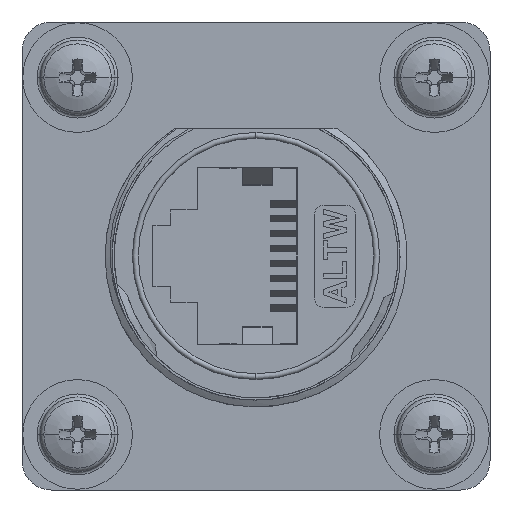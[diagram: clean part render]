
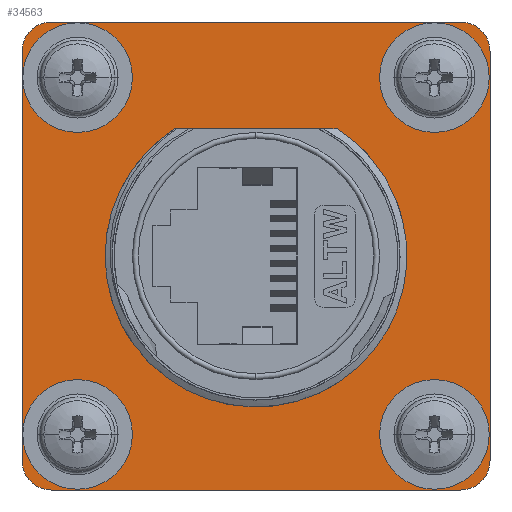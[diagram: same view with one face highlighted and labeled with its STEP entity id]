
A CAD part, left-side view. The second image highlights one B-rep face of the part: STEP entity #34563.
In plain terms, the highlighted planar face has unit normal (-1, 0, 0).
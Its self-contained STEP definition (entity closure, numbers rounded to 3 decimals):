
#471=CARTESIAN_POINT('',(-3.,14.,-14.));
#472=DIRECTION('',(-1.,0.,0.));
#473=DIRECTION('',(0.,1.,0.));
#474=AXIS2_PLACEMENT_3D('',#471,#472,#473);
#476=DIRECTION('',(0.,0.,-1.));
#477=VECTOR('',#476,28.);
#478=CARTESIAN_POINT('',(-3.,16.,14.));
#479=LINE('',#478,#477);
#480=CARTESIAN_POINT('',(-3.,14.,14.));
#481=DIRECTION('',(-1.,0.,0.));
#482=DIRECTION('',(0.,0.,1.));
#483=AXIS2_PLACEMENT_3D('',#480,#481,#482);
#485=DIRECTION('',(0.,1.,0.));
#486=VECTOR('',#485,28.);
#487=CARTESIAN_POINT('',(-3.,-14.,16.));
#488=LINE('',#487,#486);
#489=CARTESIAN_POINT('',(-3.,-14.,14.));
#490=DIRECTION('',(-1.,0.,0.));
#491=DIRECTION('',(0.,-1.,0.));
#492=AXIS2_PLACEMENT_3D('',#489,#490,#491);
#494=DIRECTION('',(0.,0.,1.));
#495=VECTOR('',#494,28.);
#496=CARTESIAN_POINT('',(-3.,-16.,-14.));
#497=LINE('',#496,#495);
#498=CARTESIAN_POINT('',(-3.,-14.,-14.));
#499=DIRECTION('',(-1.,0.,0.));
#500=DIRECTION('',(0.,0.,-1.));
#501=AXIS2_PLACEMENT_3D('',#498,#499,#500);
#503=DIRECTION('',(0.,-1.,0.));
#504=VECTOR('',#503,28.);
#505=CARTESIAN_POINT('',(-3.,14.,-16.));
#506=LINE('',#505,#504);
#507=DIRECTION('',(0.,-1.,0.));
#508=VECTOR('',#507,7.877);
#509=CARTESIAN_POINT('',(-3.,3.939,8.7));
#510=LINE('',#509,#508);
#511=CARTESIAN_POINT('',(-3.,12.2,12.2));
#512=DIRECTION('',(1.,0.,0.));
#513=DIRECTION('',(0.,0.,-1.));
#514=AXIS2_PLACEMENT_3D('',#511,#512,#513);
#516=CARTESIAN_POINT('',(-3.,12.2,12.2));
#517=DIRECTION('',(1.,0.,0.));
#518=DIRECTION('',(0.,0.,1.));
#519=AXIS2_PLACEMENT_3D('',#516,#517,#518);
#521=CARTESIAN_POINT('',(-3.,12.2,-12.2));
#522=DIRECTION('',(1.,0.,0.));
#523=DIRECTION('',(0.,0.,-1.));
#524=AXIS2_PLACEMENT_3D('',#521,#522,#523);
#526=CARTESIAN_POINT('',(-3.,12.2,-12.2));
#527=DIRECTION('',(1.,0.,0.));
#528=DIRECTION('',(0.,0.,1.));
#529=AXIS2_PLACEMENT_3D('',#526,#527,#528);
#531=CARTESIAN_POINT('',(-3.,-12.2,12.2));
#532=DIRECTION('',(1.,0.,0.));
#533=DIRECTION('',(0.,0.,-1.));
#534=AXIS2_PLACEMENT_3D('',#531,#532,#533);
#536=CARTESIAN_POINT('',(-3.,-12.2,12.2));
#537=DIRECTION('',(1.,0.,0.));
#538=DIRECTION('',(0.,0.,1.));
#539=AXIS2_PLACEMENT_3D('',#536,#537,#538);
#541=CARTESIAN_POINT('',(-3.,-12.2,-12.2));
#542=DIRECTION('',(1.,0.,0.));
#543=DIRECTION('',(0.,0.,-1.));
#544=AXIS2_PLACEMENT_3D('',#541,#542,#543);
#546=CARTESIAN_POINT('',(-3.,-12.2,-12.2));
#547=DIRECTION('',(1.,0.,0.));
#548=DIRECTION('',(0.,0.,1.));
#549=AXIS2_PLACEMENT_3D('',#546,#547,#548);
#23807=CARTESIAN_POINT('',(-3.,0.,0.));
#23808=DIRECTION('',(1.,0.,0.));
#23809=DIRECTION('',(0.,-0.412,0.911));
#23810=AXIS2_PLACEMENT_3D('',#23807,#23808,#23809);
#30563=CARTESIAN_POINT('',(-3.,16.,-14.));
#30564=CARTESIAN_POINT('',(-3.,14.,-16.));
#30565=VERTEX_POINT('',#30563);
#30566=VERTEX_POINT('',#30564);
#30567=CARTESIAN_POINT('',(-3.,-14.,-16.));
#30568=VERTEX_POINT('',#30567);
#30569=CARTESIAN_POINT('',(-3.,-16.,-14.));
#30570=VERTEX_POINT('',#30569);
#30571=CARTESIAN_POINT('',(-3.,-16.,14.));
#30572=VERTEX_POINT('',#30571);
#30573=CARTESIAN_POINT('',(-3.,-14.,16.));
#30574=VERTEX_POINT('',#30573);
#30575=CARTESIAN_POINT('',(-3.,14.,16.));
#30576=VERTEX_POINT('',#30575);
#30577=CARTESIAN_POINT('',(-3.,16.,14.));
#30578=VERTEX_POINT('',#30577);
#30872=CARTESIAN_POINT('',(-3.,-3.939,8.7));
#30873=VERTEX_POINT('',#30872);
#30874=CARTESIAN_POINT('',(-3.,3.939,8.7));
#30875=VERTEX_POINT('',#30874);
#33017=CARTESIAN_POINT('',(-3.,12.2,9.2));
#33018=CARTESIAN_POINT('',(-3.,12.2,15.2));
#33019=VERTEX_POINT('',#33017);
#33020=VERTEX_POINT('',#33018);
#33025=CARTESIAN_POINT('',(-3.,12.2,-15.2));
#33026=CARTESIAN_POINT('',(-3.,12.2,-9.2));
#33027=VERTEX_POINT('',#33025);
#33028=VERTEX_POINT('',#33026);
#33033=CARTESIAN_POINT('',(-3.,-12.2,9.2));
#33034=CARTESIAN_POINT('',(-3.,-12.2,15.2));
#33035=VERTEX_POINT('',#33033);
#33036=VERTEX_POINT('',#33034);
#33041=CARTESIAN_POINT('',(-3.,-12.2,-15.2));
#33042=CARTESIAN_POINT('',(-3.,-12.2,-9.2));
#33043=VERTEX_POINT('',#33041);
#33044=VERTEX_POINT('',#33042);
#34512=CARTESIAN_POINT('',(-3.,0.,0.));
#34513=DIRECTION('',(-1.,0.,0.));
#34514=DIRECTION('',(0.,1.,0.));
#34515=AXIS2_PLACEMENT_3D('',#34512,#34513,#34514);
#34516=PLANE('',#34515);
#34518=ORIENTED_EDGE('',*,*,#34517,.F.);
#34520=ORIENTED_EDGE('',*,*,#34519,.F.);
#34522=ORIENTED_EDGE('',*,*,#34521,.F.);
#34524=ORIENTED_EDGE('',*,*,#34523,.F.);
#34526=ORIENTED_EDGE('',*,*,#34525,.F.);
#34528=ORIENTED_EDGE('',*,*,#34527,.F.);
#34530=ORIENTED_EDGE('',*,*,#34529,.F.);
#34532=ORIENTED_EDGE('',*,*,#34531,.F.);
#34533=EDGE_LOOP('',(#34518,#34520,#34522,#34524,#34526,#34528,#34530,#34532));
#34534=FACE_OUTER_BOUND('',#34533,.F.);
#34536=ORIENTED_EDGE('',*,*,#34535,.F.);
#34538=ORIENTED_EDGE('',*,*,#34537,.F.);
#34539=EDGE_LOOP('',(#34536,#34538));
#34540=FACE_BOUND('',#34539,.F.);
#34541=ORIENTED_EDGE('',*,*,#34492,.F.);
#34542=ORIENTED_EDGE('',*,*,#34506,.F.);
#34543=EDGE_LOOP('',(#34541,#34542));
#34544=FACE_BOUND('',#34543,.F.);
#34546=ORIENTED_EDGE('',*,*,#34545,.F.);
#34548=ORIENTED_EDGE('',*,*,#34547,.F.);
#34549=EDGE_LOOP('',(#34546,#34548));
#34550=FACE_BOUND('',#34549,.F.);
#34552=ORIENTED_EDGE('',*,*,#34551,.F.);
#34554=ORIENTED_EDGE('',*,*,#34553,.F.);
#34555=EDGE_LOOP('',(#34552,#34554));
#34556=FACE_BOUND('',#34555,.F.);
#34558=ORIENTED_EDGE('',*,*,#34557,.F.);
#34560=ORIENTED_EDGE('',*,*,#34559,.F.);
#34561=EDGE_LOOP('',(#34558,#34560));
#34562=FACE_BOUND('',#34561,.F.);
#34563=ADVANCED_FACE('',(#34534,#34540,#34544,#34550,#34556,#34562),#34516,.T.);
#475=CIRCLE('',#474,2.);
#484=CIRCLE('',#483,2.);
#493=CIRCLE('',#492,2.);
#502=CIRCLE('',#501,2.);
#515=CIRCLE('',#514,3.);
#520=CIRCLE('',#519,3.);
#525=CIRCLE('',#524,3.);
#530=CIRCLE('',#529,3.);
#535=CIRCLE('',#534,3.);
#540=CIRCLE('',#539,3.);
#545=CIRCLE('',#544,3.);
#550=CIRCLE('',#549,3.);
#23811=CIRCLE('',#23810,9.55);
#34492=EDGE_CURVE('',#33019,#33020,#515,.T.);
#34506=EDGE_CURVE('',#33020,#33019,#520,.T.);
#34517=EDGE_CURVE('',#30565,#30566,#475,.T.);
#34519=EDGE_CURVE('',#30578,#30565,#479,.T.);
#34521=EDGE_CURVE('',#30576,#30578,#484,.T.);
#34523=EDGE_CURVE('',#30574,#30576,#488,.T.);
#34525=EDGE_CURVE('',#30572,#30574,#493,.T.);
#34527=EDGE_CURVE('',#30570,#30572,#497,.T.);
#34529=EDGE_CURVE('',#30568,#30570,#502,.T.);
#34531=EDGE_CURVE('',#30566,#30568,#506,.T.);
#34535=EDGE_CURVE('',#30873,#30875,#23811,.T.);
#34537=EDGE_CURVE('',#30875,#30873,#510,.T.);
#34545=EDGE_CURVE('',#33027,#33028,#525,.T.);
#34547=EDGE_CURVE('',#33028,#33027,#530,.T.);
#34551=EDGE_CURVE('',#33035,#33036,#535,.T.);
#34553=EDGE_CURVE('',#33036,#33035,#540,.T.);
#34557=EDGE_CURVE('',#33043,#33044,#545,.T.);
#34559=EDGE_CURVE('',#33044,#33043,#550,.T.);
